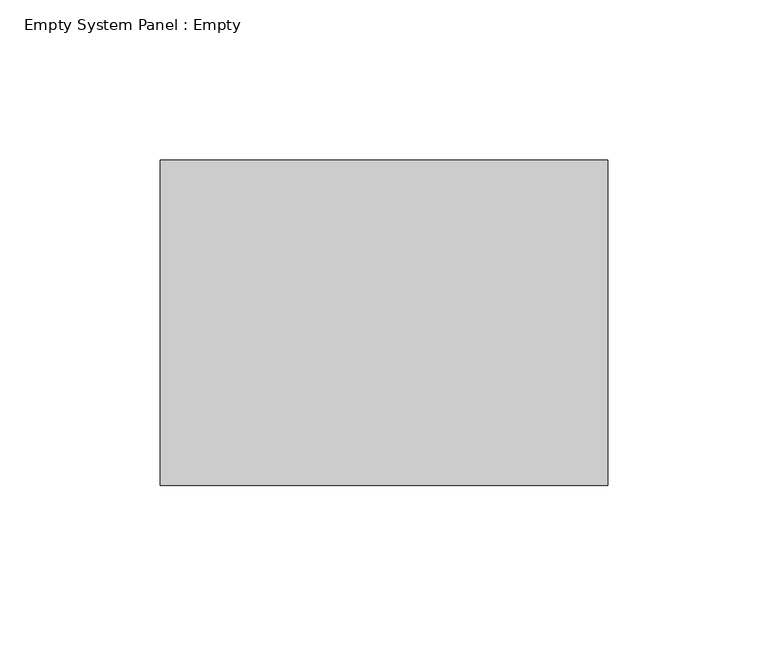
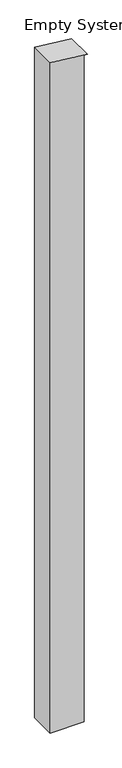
"""IFC4 building model written with IfcOpenShell, lengths in millimetres: plate geometry, Empty System Panel : Empty."""

from ifc_helpers import new_model, si_unit, frame, origin, place, context, project, spatial, polyline, outline, extrude, source, transform, mapped, element, save


def empty_system_panel_empty_9cf13517(model_context):
    return source(origin(), model_context, "Body", "SweptSolid", [
        extrude(outline(polyline([(0.0, -69.85), (0.0, 57.15), (2656.1283811, 57.15), (2656.1283811, 69.85), (2671.7535711, -69.85), (0.0, -69.85)])), frame((0.0, -50.8, 0.0), z_axis=(0.0, 1.0, 0.0), x_axis=(0.0, 0.0, 1.0)), (0.0, 0.0, 1.0), 101.6),
    ])


if __name__ == "__main__":
    model = new_model("IFC4")
    model_context = context("Model", 3, world=origin())
    ifc_project = project(units=[si_unit("LENGTHUNIT", "METRE", prefix="MILLI")], contexts=[model_context])
    site = spatial("IfcSite", under=ifc_project)
    building = spatial("IfcBuilding", under=site)
    placement = place(None, origin())
    empty_system_panel_empty_shape = empty_system_panel_empty_9cf13517(model_context)
    element("IfcPlate", 1, ObjectType="Empty System Panel : Empty", at=placement, inside=building, context=model_context, shape_type="MappedRepresentation", body=[
        mapped(empty_system_panel_empty_shape, transform((0.0, 0.0, 0.0), x_axis=(1.0, 0.0, 0.0), y_axis=(0.0, 1.0, 0.0), z_axis=(0.0, 0.0, 1.0))),
    ])
    save(model, "model.ifc")
